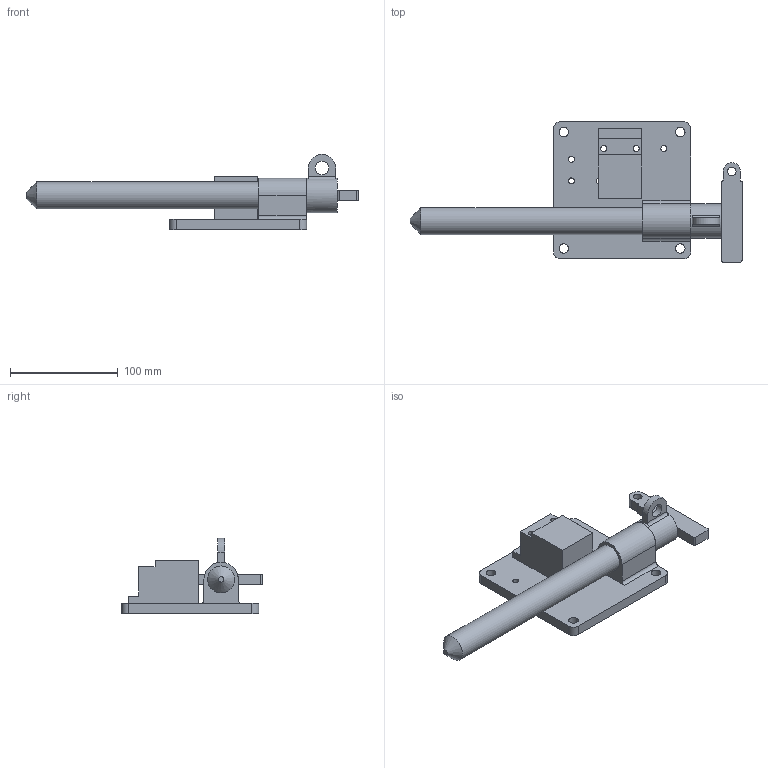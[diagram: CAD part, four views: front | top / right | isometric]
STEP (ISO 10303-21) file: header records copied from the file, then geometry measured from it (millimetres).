
FILE_DESCRIPTION(/* description */ (''),/* implementation_level */ '2;1');
FILE_NAME(/* name */ 'C:\Users\rcarver\Desktop\Tru-LOK pin\GM\With Switch\SP25Y250TR00200.stp',/* time_stamp */ '2016-06-24T13:30:56-04:00',/* author */ ('rcarver'),/* organization */ (''),/* preprocessor_version */ 'ST-DEVELOPER v16.5',/* originating_system */ 'Autodesk Inventor 2017',/* authorisation */ '');
FILE_SCHEMA (('AUTOMOTIVE_DESIGN { 1 0 10303 214 3 1 1 }'));
Length unit declared in the file: millimetre
Products named in the file (1): SP25Y250TR00200
Bounding box: 307.62 x 130.18 x 69.85 mm (x, y, z)
Volume: 427656.1 mm3; surface area: 83799.5 mm2
Topology: 3 solids, 3 shells, 69 faces, 192 edges, 131 vertices
Faces by surface type: plane 37, cylinder 31, cone 1
Full cylindrical faces by diameter (mm): 5.588 x2, 5.59 x6, 7.94 x1, 8.74 x4, 12.7 x1, 25 x1, 31.75 x1
Entity records: 2178 total; most frequent: DIRECTION 368, CARTESIAN_POINT 346, ORIENTED_EDGE 320, EDGE_CURVE 160, AXIS2_PLACEMENT_3D 138, EDGE_LOOP 116, VERTEX_POINT 116, LINE 92
